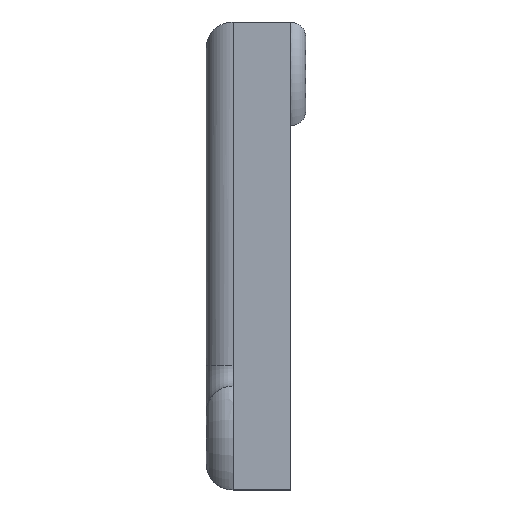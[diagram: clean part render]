
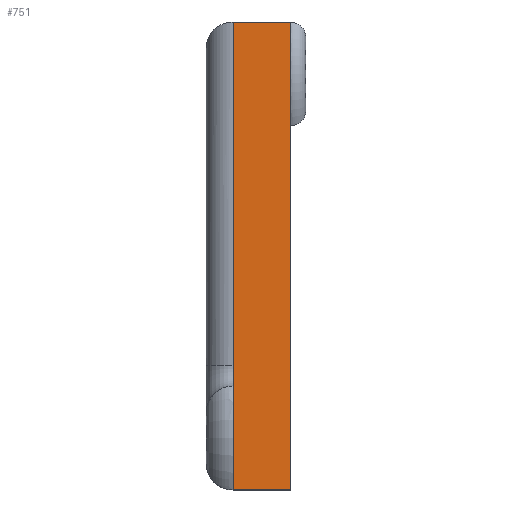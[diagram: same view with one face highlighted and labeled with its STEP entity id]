
A CAD part, left-side view. The second image highlights one B-rep face of the part: STEP entity #751.
In plain terms, the highlighted planar face has unit normal (-1, 0, 0).
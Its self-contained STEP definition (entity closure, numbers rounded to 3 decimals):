
#161 = AXIS2_PLACEMENT_3D ( 'NONE', #518, #177, #1855 ) ;
#175 = VERTEX_POINT ( 'NONE', #1918 ) ;
#177 = DIRECTION ( 'NONE',  ( 1., 0., 0. ) ) ;
#193 = VERTEX_POINT ( 'NONE', #916 ) ;
#226 = ORIENTED_EDGE ( 'NONE', *, *, #977, .T. ) ;
#339 = VECTOR ( 'NONE', #779, 1000. ) ;
#366 = EDGE_CURVE ( 'NONE', #654, #175, #2081, .T. ) ;
#403 = CARTESIAN_POINT ( 'NONE',  ( -35., 2.75, 22.5 ) ) ;
#481 = FACE_OUTER_BOUND ( 'NONE', #1890, .T. ) ;
#511 = PLANE ( 'NONE',  #161 ) ;
#518 = CARTESIAN_POINT ( 'NONE',  ( -35., 2.75, -22.5 ) ) ;
#654 = VERTEX_POINT ( 'NONE', #1988 ) ;
#681 = LINE ( 'NONE', #1039, #1877 ) ;
#729 = DIRECTION ( 'NONE',  ( 0., -1., 0. ) ) ;
#737 = ORIENTED_EDGE ( 'NONE', *, *, #366, .F. ) ;
#751 = ADVANCED_FACE ( 'NONE', ( #481 ), #511, .F. ) ;
#779 = DIRECTION ( 'NONE',  ( 0., 0., 1. ) ) ;
#848 = ORIENTED_EDGE ( 'NONE', *, *, #1400, .F. ) ;
#916 = CARTESIAN_POINT ( 'NONE',  ( -35., 2.75, -22.5 ) ) ;
#924 = LINE ( 'NONE', #1725, #949 ) ;
#942 = CARTESIAN_POINT ( 'NONE',  ( -35., -2.75, -22.5 ) ) ;
#949 = VECTOR ( 'NONE', #729, 1000. ) ;
#977 = EDGE_CURVE ( 'NONE', #193, #1082, #924, .T. ) ;
#1039 = CARTESIAN_POINT ( 'NONE',  ( -35., 2.75, -22.5 ) ) ;
#1067 = DIRECTION ( 'NONE',  ( 0., -1., 0. ) ) ;
#1082 = VERTEX_POINT ( 'NONE', #1593 ) ;
#1353 = DIRECTION ( 'NONE',  ( 0., 0., 1. ) ) ;
#1400 = EDGE_CURVE ( 'NONE', #193, #654, #681, .T. ) ;
#1593 = CARTESIAN_POINT ( 'NONE',  ( -35., -2.75, -22.5 ) ) ;
#1611 = LINE ( 'NONE', #942, #339 ) ;
#1663 = ORIENTED_EDGE ( 'NONE', *, *, #1700, .T. ) ;
#1700 = EDGE_CURVE ( 'NONE', #1082, #175, #1611, .T. ) ;
#1725 = CARTESIAN_POINT ( 'NONE',  ( -35., 2.75, -22.5 ) ) ;
#1855 = DIRECTION ( 'NONE',  ( 0., 0., -1. ) ) ;
#1877 = VECTOR ( 'NONE', #1353, 1000. ) ;
#1890 = EDGE_LOOP ( 'NONE', ( #1663, #737, #848, #226 ) ) ;
#1918 = CARTESIAN_POINT ( 'NONE',  ( -35., -2.75, 22.5 ) ) ;
#1988 = CARTESIAN_POINT ( 'NONE',  ( -35., 2.75, 22.5 ) ) ;
#2081 = LINE ( 'NONE', #403, #2168 ) ;
#2168 = VECTOR ( 'NONE', #1067, 1000. ) ;
